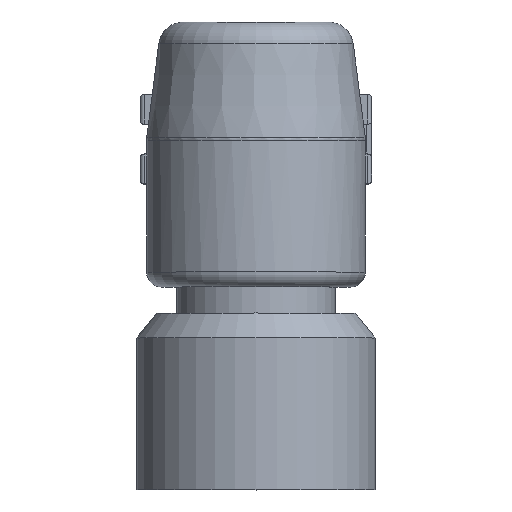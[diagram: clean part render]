
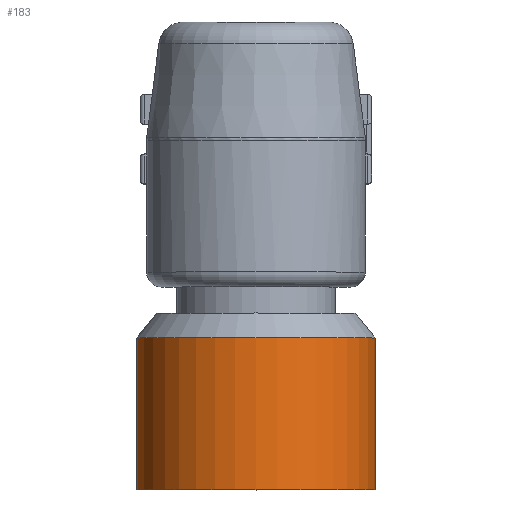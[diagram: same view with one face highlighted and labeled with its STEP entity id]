
A CAD part, top view. The second image highlights one B-rep face of the part: STEP entity #183.
In plain terms, the highlighted cylindrical face has radius 4.8 mm (diameter 9.6 mm), a full revolution.
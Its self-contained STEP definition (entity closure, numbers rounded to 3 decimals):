
#183 = ADVANCED_FACE( '', ( #503, #504 ), #505, .T. );
#503 = FACE_OUTER_BOUND( '', #994, .T. );
#504 = FACE_OUTER_BOUND( '', #995, .T. );
#505 = CYLINDRICAL_SURFACE( '', #996, 4.8 );
#994 = EDGE_LOOP( '', ( #1509 ) );
#995 = EDGE_LOOP( '', ( #1510 ) );
#996 = AXIS2_PLACEMENT_3D( '', #1511, #1512, #1513 );
#1509 = ORIENTED_EDGE( '', *, *, #2817, .T. );
#1510 = ORIENTED_EDGE( '', *, *, #2818, .F. );
#1511 = CARTESIAN_POINT( '', ( 0., 51.7, 0. ) );
#1512 = DIRECTION( '', ( 0., 1., 0. ) );
#1513 = DIRECTION( '', ( 0., 0., 1. ) );
#2817 = EDGE_CURVE( '', #3314, #3314, #3315, .T. );
#2818 = EDGE_CURVE( '', #3316, #3316, #3317, .T. );
#3314 = VERTEX_POINT( '', #4022 );
#3315 = CIRCLE( '', #4023, 4.8 );
#3316 = VERTEX_POINT( '', #4024 );
#3317 = CIRCLE( '', #4025, 4.8 );
#4022 = CARTESIAN_POINT( '', ( 0., -14.1, 4.8 ) );
#4023 = AXIS2_PLACEMENT_3D( '', #5097, #5098, #5099 );
#4024 = CARTESIAN_POINT( '', ( 0., -8., 4.8 ) );
#4025 = AXIS2_PLACEMENT_3D( '', #5100, #5101, #5102 );
#5097 = CARTESIAN_POINT( '', ( 0., -14.1, 0. ) );
#5098 = DIRECTION( '', ( 0., 1., 0. ) );
#5099 = DIRECTION( '', ( 0., 0., 1. ) );
#5100 = CARTESIAN_POINT( '', ( 0., -8., 0. ) );
#5101 = DIRECTION( '', ( 0., 1., 0. ) );
#5102 = DIRECTION( '', ( 0., 0., 1. ) );
